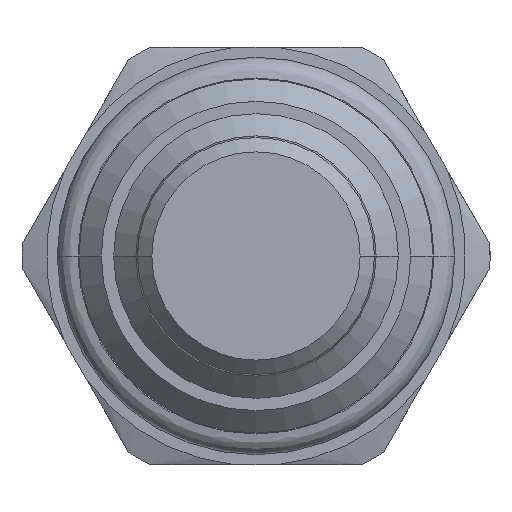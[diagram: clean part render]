
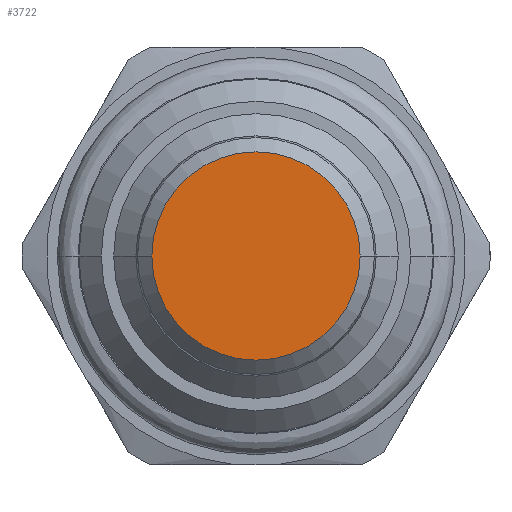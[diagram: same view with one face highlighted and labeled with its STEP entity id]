
A CAD part, front view. The second image highlights one B-rep face of the part: STEP entity #3722.
In plain terms, the highlighted planar face has unit normal (0, -1, 0).
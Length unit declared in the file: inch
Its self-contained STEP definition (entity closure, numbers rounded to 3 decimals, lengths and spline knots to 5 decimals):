
#1421=CARTESIAN_POINT('',(0.,-1.091,0.));
#1422=DIRECTION('',(0.,1.,0.));
#1423=DIRECTION('',(-1.,0.,0.));
#1424=AXIS2_PLACEMENT_3D('',#1421,#1422,#1423);
#1431=CARTESIAN_POINT('',(0.,-1.091,0.));
#1432=DIRECTION('',(0.,1.,0.));
#1433=DIRECTION('',(1.,0.,0.));
#1434=AXIS2_PLACEMENT_3D('',#1431,#1432,#1433);
#1485=CARTESIAN_POINT('',(-0.2185,-1.091,0.));
#1486=CARTESIAN_POINT('',(0.2185,-1.091,0.));
#1487=VERTEX_POINT('',#1485);
#1488=VERTEX_POINT('',#1486);
#3712=CARTESIAN_POINT('',(0.,-1.091,0.));
#3713=DIRECTION('',(0.,1.,0.));
#3714=DIRECTION('',(1.,0.,0.));
#3715=AXIS2_PLACEMENT_3D('',#3712,#3713,#3714);
#3716=PLANE('',#3715);
#3718=ORIENTED_EDGE('',*,*,#3717,.T.);
#3719=ORIENTED_EDGE('',*,*,#3702,.T.);
#3720=EDGE_LOOP('',(#3718,#3719));
#3721=FACE_OUTER_BOUND('',#3720,.F.);
#3722=ADVANCED_FACE('',(#3721),#3716,.F.);
#1425=CIRCLE('',#1424,0.2185);
#1435=CIRCLE('',#1434,0.2185);
#3702=EDGE_CURVE('',#1487,#1488,#1425,.T.);
#3717=EDGE_CURVE('',#1488,#1487,#1435,.T.);
